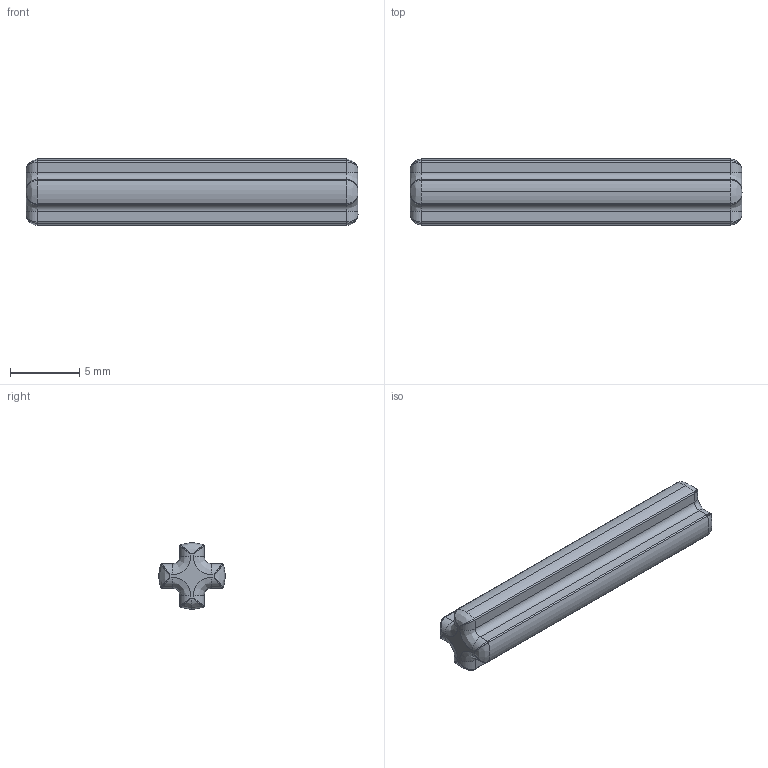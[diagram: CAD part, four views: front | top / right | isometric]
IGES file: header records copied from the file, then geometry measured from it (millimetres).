
Start section: SolidWorks IGES file using analytic representation for surfaces
Global section: file name: C:\Users\PC\Desktop\Lego Technik Gear and Axles\Axles\STEP, IGES, STL\4519 Black Technic Axle 3.IGS; native system: SolidWorks 2014; preprocessor: SolidWorks 2014; author: PC; date: 150218.233648; units: millimetre
Bounding box: 24 x 4.79 x 4.8 mm (x, y, z)
Surface area: 422.9 mm2 (no closed solid volume)
Topology: 0 solids, 0 shells, 77 faces, 490 edges, 474 vertices
Faces by surface type: bspline 44, revolution 33
